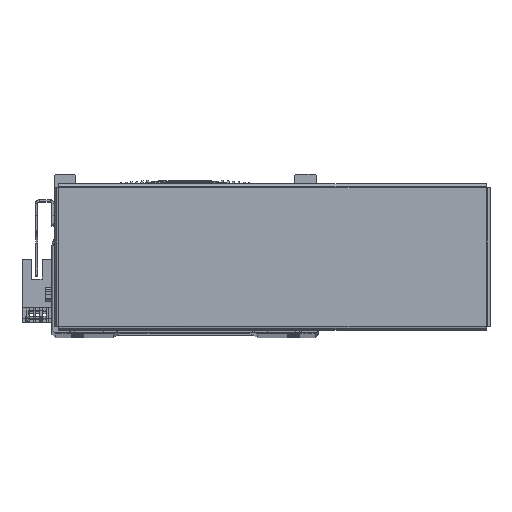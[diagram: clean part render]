
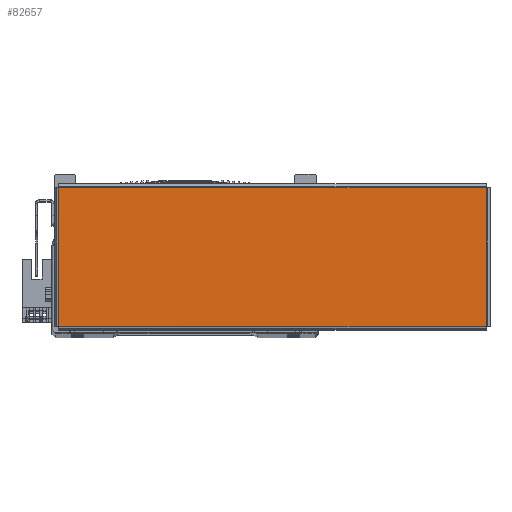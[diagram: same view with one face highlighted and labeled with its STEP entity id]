
A CAD part, top view. The second image highlights one B-rep face of the part: STEP entity #82657.
In plain terms, the highlighted planar face has unit normal (0, 0, 1) as drawn and (0, 0, -1) by its records, which use the part's own axes.
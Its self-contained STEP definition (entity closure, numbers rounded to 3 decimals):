
#5437 = VERTEX_POINT ( 'NONE', #67756 ) ;
#5473 = VERTEX_POINT ( 'NONE', #67760 ) ;
#5515 = VERTEX_POINT ( 'NONE', #67773 ) ;
#5539 = VERTEX_POINT ( 'NONE', #67813 ) ;
#12437 = EDGE_LOOP ( 'NONE', ( #38028, #38167, #38173, #38089 ) ) ;
#25165 = DIRECTION ( 'NONE',  ( 0., 1., 0. ) ) ;
#25209 = DIRECTION ( 'NONE',  ( 0., -1., 0. ) ) ;
#25218 = CARTESIAN_POINT ( 'NONE',  ( -97.863, -31.793, -1. ) ) ;
#25245 = CARTESIAN_POINT ( 'NONE',  ( 97.863, 31.793, -1. ) ) ;
#25317 = CARTESIAN_POINT ( 'NONE',  ( 97.893, -31.763, -1. ) ) ;
#25340 = DIRECTION ( 'NONE',  ( -1., 0., 0. ) ) ;
#25455 = DIRECTION ( 'NONE',  ( 1., 0., 0. ) ) ;
#25501 = CARTESIAN_POINT ( 'NONE',  ( -97.893, 31.763, -1. ) ) ;
#30660 = LINE ( 'NONE', #25245, #30663 ) ;
#30663 = VECTOR ( 'NONE', #25209, 1000. ) ;
#30683 = VECTOR ( 'NONE', #25455, 1000. ) ;
#30691 = LINE ( 'NONE', #25501, #30683 ) ;
#30703 = VECTOR ( 'NONE', #25340, 1000. ) ;
#30704 = VECTOR ( 'NONE', #25165, 1000. ) ;
#30729 = LINE ( 'NONE', #25317, #30703 ) ;
#30737 = LINE ( 'NONE', #25218, #30704 ) ;
#33396 = EDGE_CURVE ( 'NONE', #5437, #5473, #30660, .T. ) ;
#33400 = EDGE_CURVE ( 'NONE', #5539, #5515, #30737, .T. ) ;
#33405 = EDGE_CURVE ( 'NONE', #5473, #5539, #30729, .T. ) ;
#33421 = EDGE_CURVE ( 'NONE', #5515, #5437, #30691, .T. ) ;
#35297 = PLANE ( 'NONE',  #43383 ) ;
#35320 = CARTESIAN_POINT ( 'NONE',  ( 0., 0., -1. ) ) ;
#35321 = DIRECTION ( 'NONE',  ( 1., 0., 0. ) ) ;
#35325 = DIRECTION ( 'NONE',  ( 0., 0., 1. ) ) ;
#38028 = ORIENTED_EDGE ( 'NONE', *, *, #33396, .T. ) ;
#38089 = ORIENTED_EDGE ( 'NONE', *, *, #33421, .T. ) ;
#38167 = ORIENTED_EDGE ( 'NONE', *, *, #33405, .T. ) ;
#38173 = ORIENTED_EDGE ( 'NONE', *, *, #33400, .T. ) ;
#43383 = AXIS2_PLACEMENT_3D ( 'NONE', #35320, #35325, #35321 ) ;
#45486 = FACE_OUTER_BOUND ( 'NONE', #12437, .T. ) ;
#67756 = CARTESIAN_POINT ( 'NONE',  ( 97.863, 31.763, -1. ) ) ;
#67760 = CARTESIAN_POINT ( 'NONE',  ( 97.863, -31.763, -1. ) ) ;
#67773 = CARTESIAN_POINT ( 'NONE',  ( -97.863, 31.763, -1. ) ) ;
#67813 = CARTESIAN_POINT ( 'NONE',  ( -97.863, -31.763, -1. ) ) ;
#82657 = ADVANCED_FACE ( 'NONE', ( #45486 ), #35297, .F. ) ;
